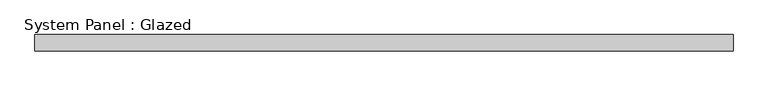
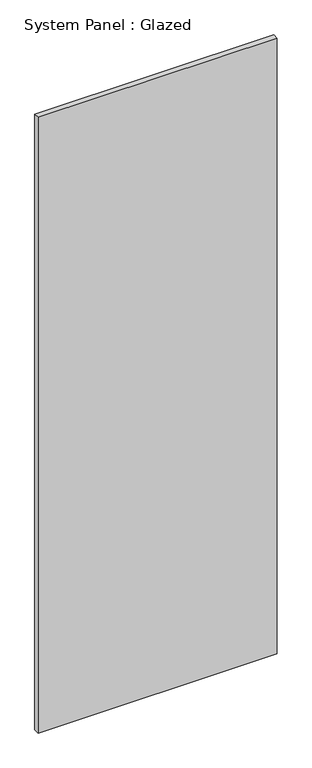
"""IFC4 building model written with IfcOpenShell, lengths in millimetres: plate geometry, System Panel : Glazed."""

from ifc_helpers import new_model, si_unit, origin, origin_with_axes, place, context, project, spatial, polyline, outline, extrude, source, transform, mapped, element, save


def system_panel_glazed_a434d42b(model_context):
    return source(origin(), model_context, "Body", "SweptSolid", [
        extrude(outline(polyline([(537.4999999, -49.5), (-537.4999999, -49.5), (-537.4999999, -24.5), (537.4999999, -24.5), (537.4999999, -49.5)])), origin_with_axes(), (0.0, 0.0, 1.0), 2925.0),
    ])


if __name__ == "__main__":
    model = new_model("IFC4")
    model_context = context("Model", 3, world=origin())
    ifc_project = project(units=[si_unit("LENGTHUNIT", "METRE", prefix="MILLI")], contexts=[model_context])
    site = spatial("IfcSite", under=ifc_project)
    building = spatial("IfcBuilding", under=site)
    placement = place(None, origin())
    system_panel_glazed_shape = system_panel_glazed_a434d42b(model_context)
    element("IfcPlate", 1, ObjectType="System Panel : Glazed", at=placement, inside=building, context=model_context, shape_type="MappedRepresentation", body=[
        mapped(system_panel_glazed_shape, transform((0.0, 0.0, 0.0), x_axis=(1.0, 0.0, 0.0), y_axis=(0.0, 1.0, 0.0), z_axis=(0.0, 0.0, 1.0))),
    ])
    save(model, "model.ifc")
